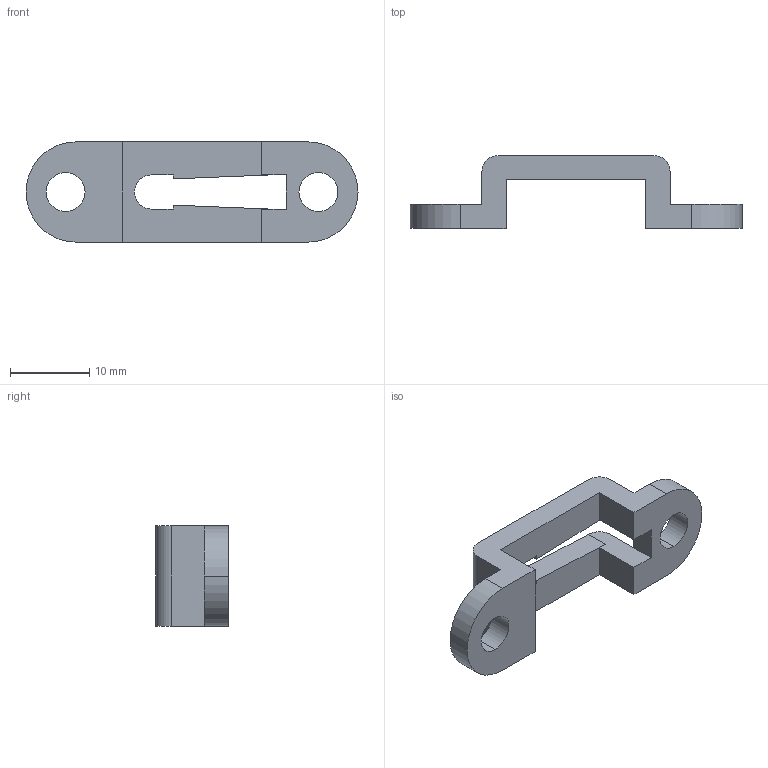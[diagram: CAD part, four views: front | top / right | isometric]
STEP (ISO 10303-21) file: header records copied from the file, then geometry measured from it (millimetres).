
FILE_DESCRIPTION (( 'STEP AP214' ), '1' );
FILE_NAME ('5032A_V01_REF_BLOCK_SEMI-LOCKING_SGL_CLIP.STEP', '2025-06-09T17:32:01', ( '' ), ( '' ), 'SwSTEP 2.0', 'SolidWorks 2025', '' );
FILE_SCHEMA (( 'AUTOMOTIVE_DESIGN' ));
Length unit declared in the file: inch
Products named in the file (1): 5032A_V01_REF_BLOCK_SEMI-LOCKING_SGL_CLIP
Bounding box: 42.01 x 9.22 x 12.7 mm (x, y, z)
Volume: 1554.6 mm3; surface area: 1657 mm2
Topology: 1 solids, 1 shells, 35 faces, 101 edges, 66 vertices
Faces by surface type: plane 23, cylinder 12
Entity records: 1186 total; most frequent: CARTESIAN_POINT 203, ORIENTED_EDGE 202, DIRECTION 197, EDGE_CURVE 101, LINE 77, VECTOR 77, VERTEX_POINT 66, AXIS2_PLACEMENT_3D 60
